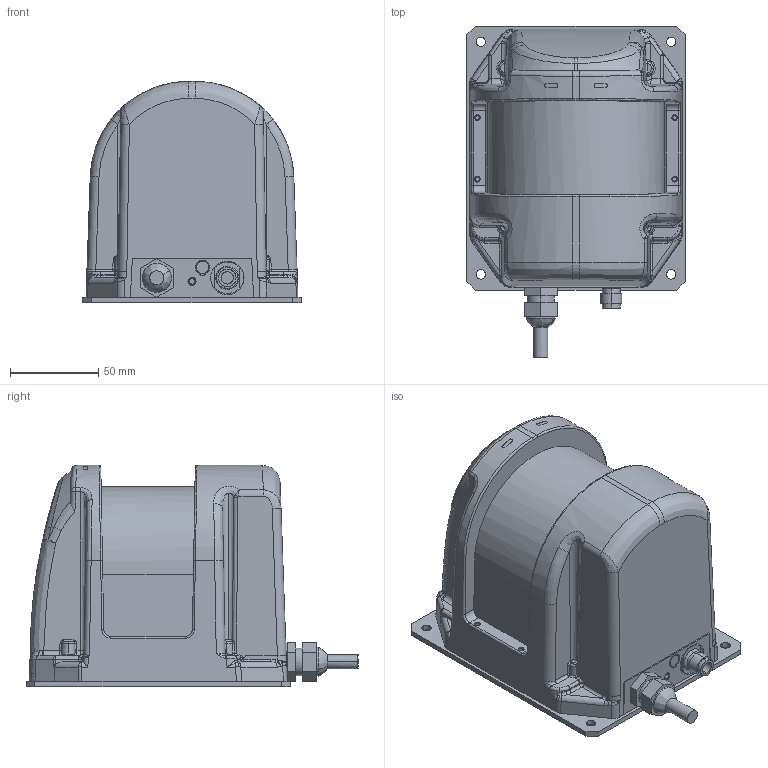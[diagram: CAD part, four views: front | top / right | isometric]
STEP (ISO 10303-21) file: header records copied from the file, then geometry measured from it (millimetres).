
FILE_DESCRIPTION (( 'STEP AP203' ), '1' );
FILE_NAME ('UXM 3D DATA.STEP', '2011-04-27T06:25:25', ( 'hokuyo' ), ( '' ), 'SwSTEP 2.0', 'SolidWorks 2010', '' );
FILE_SCHEMA (( 'CONFIG_CONTROL_DESIGN' ));
Products named in the file (1): UXM  3D  DATA
Bounding box: 124 x 188.42 x 125.5 mm (x, y, z)
Volume: 1530792.9 mm3; surface area: 94457.7 mm2
Topology: 1 solids, 1 shells, 550 faces, 1380 edges, 837 vertices
Faces by surface type: bspline 194, plane 157, cylinder 127, cone 72
Entity records: 40978 total; most frequent: CARTESIAN_POINT 29951, ORIENTED_EDGE 2714, DIRECTION 1602, EDGE_CURVE 1357, VERTEX_POINT 837, B_SPLINE_CURVE_WITH_KNOTS 629, EDGE_LOOP 586, AXIS2_PLACEMENT_3D 566
